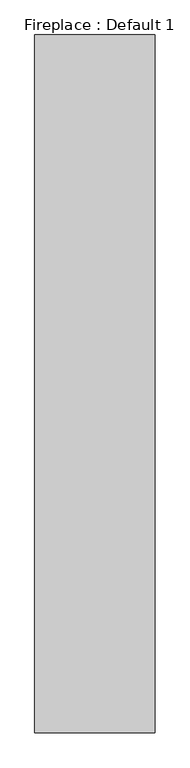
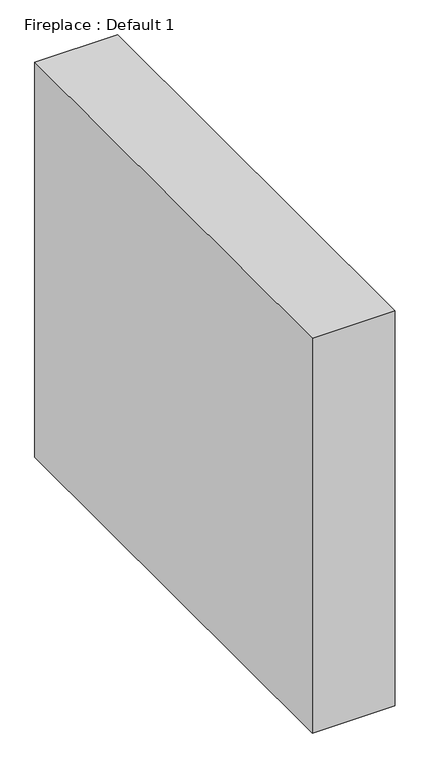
"""IFC4 building model written with IfcOpenShell, lengths in millimetres: proxy geometry, Fireplace : Default 1."""

from ifc_helpers import new_model, si_unit, origin, origin_with_axes, place, context, project, spatial, polyline, outline, extrude, source, transform, mapped, element, save


def fireplace_default_1_dd52ab6f(model_context):
    return source(origin(), model_context, "Body", "SweptSolid", [
        extrude(outline(polyline([(151.1717286, -100.0), (151.1717286, -1855.4214525), (-151.1717286, -1855.4214525), (-151.1717286, -100.0), (151.1717286, -100.0)])), origin_with_axes(), (0.0, 0.0, 1.0), 1524.0),
    ])


if __name__ == "__main__":
    model = new_model("IFC4")
    model_context = context("Model", 3, world=origin())
    ifc_project = project(units=[si_unit("LENGTHUNIT", "METRE", prefix="MILLI")], contexts=[model_context])
    site = spatial("IfcSite", under=ifc_project)
    building = spatial("IfcBuilding", under=site)
    placement = place(None, origin())
    fireplace_default_1_shape = fireplace_default_1_dd52ab6f(model_context)
    element("IfcBuildingElementProxy", 1, Name="Fireplace : Default 1", ObjectType="Fireplace : Default 1", at=placement, inside=building, context=model_context, shape_type="MappedRepresentation", body=[
        mapped(fireplace_default_1_shape, transform((0.0, 0.0, 0.0), x_axis=(1.0, 0.0, 0.0), y_axis=(0.0, 1.0, 0.0), z_axis=(0.0, 0.0, 1.0))),
    ])
    save(model, "model.ifc")
